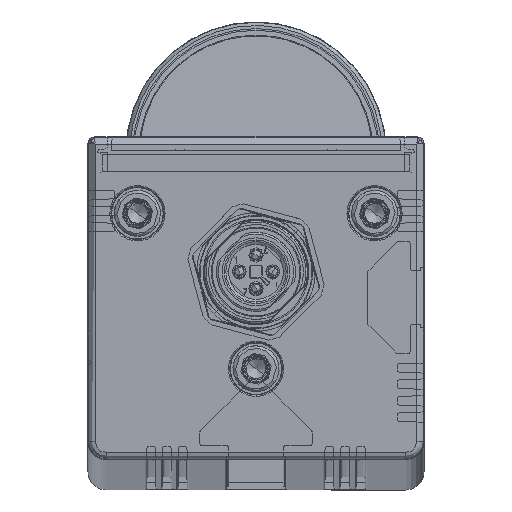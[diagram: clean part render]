
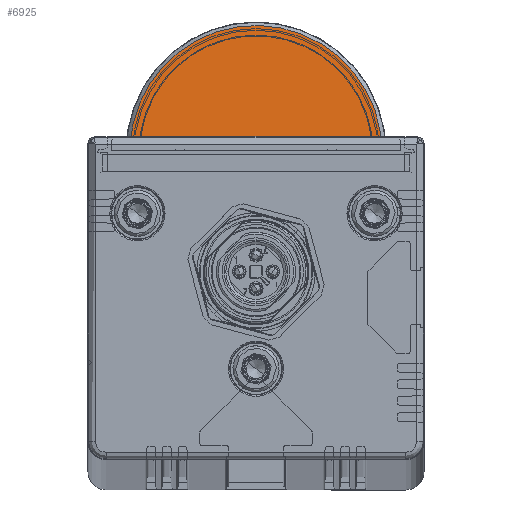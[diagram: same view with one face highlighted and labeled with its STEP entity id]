
A CAD part, top view. The second image highlights one B-rep face of the part: STEP entity #6925.
In plain terms, the highlighted planar face has unit normal (0, 0.087, 0.996).
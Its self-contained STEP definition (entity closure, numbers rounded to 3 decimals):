
#1032 = CARTESIAN_POINT ( 'NONE',  ( -2.518, 20.743, -10.17 ) ) ;
#1156 = CARTESIAN_POINT ( 'NONE',  ( 12.696, 16.094, -9.764 ) ) ;
#2732 = CARTESIAN_POINT ( 'NONE',  ( -1.259, 20.868, -10.181 ) ) ;
#2879 = ORIENTED_EDGE ( 'NONE', *, *, #16325, .T. ) ;
#3195 = CARTESIAN_POINT ( 'NONE',  ( -17.236, 10.097, -9.239 ) ) ;
#4321 = VERTEX_POINT ( 'NONE', #16996 ) ;
#4664 = CARTESIAN_POINT ( 'NONE',  ( 2.517, 20.743, -10.17 ) ) ;
#4775 = CARTESIAN_POINT ( 'NONE',  ( 1.259, 20.868, -10.181 ) ) ;
#4893 = CARTESIAN_POINT ( 'NONE',  ( 9.634, 18.309, -9.957 ) ) ;
#5005 = CARTESIAN_POINT ( 'NONE',  ( -6.197, 19.879, -10.095 ) ) ;
#6249 = CARTESIAN_POINT ( 'NONE',  ( -19.116, 2.816, -8.602 ) ) ;
#6466 = CARTESIAN_POINT ( 'NONE',  ( 15.264, 13.321, -9.521 ) ) ;
#6585 = CARTESIAN_POINT ( 'NONE',  ( 19.005, 4.074, -8.712 ) ) ;
#6704 = CARTESIAN_POINT ( 'NONE',  ( 17.236, 10.097, -9.239 ) ) ;
#6876 = DIRECTION ( 'NONE',  ( 0., -0.996, 0.087 ) ) ;
#6925 = ADVANCED_FACE ( 'NONE', ( #17104 ), #15405, .T. ) ;
#7949 = CARTESIAN_POINT ( 'NONE',  ( -19.005, 4.075, -8.712 ) ) ;
#8408 = CARTESIAN_POINT ( 'NONE',  ( -18.181, 7.763, -9.035 ) ) ;
#9651 = CARTESIAN_POINT ( 'NONE',  ( 11.723, 16.901, -9.834 ) ) ;
#9763 = CARTESIAN_POINT ( 'NONE',  ( 4.988, 20.248, -10.127 ) ) ;
#9895 = CARTESIAN_POINT ( 'NONE',  ( -8.521, 18.909, -10.01 ) ) ;
#9896 = CARTESIAN_POINT ( 'NONE',  ( 19.102, 1.555, -8.492 ) ) ;
#9998 = CARTESIAN_POINT ( 'NONE',  ( 6.196, 19.879, -10.095 ) ) ;
#10801 = CARTESIAN_POINT ( 'NONE',  ( -23.75, 1.555, -8.492 ) ) ;
#11585 = CARTESIAN_POINT ( 'NONE',  ( 19.116, 2.815, -8.602 ) ) ;
#11819 = CARTESIAN_POINT ( 'NONE',  ( -12.696, 16.094, -9.764 ) ) ;
#11891 = B_SPLINE_CURVE_WITH_KNOTS ( 'NONE', 3,
 ( #11928, #11585, #6585, #18377, #17023, #6704, #20201, #6466, #20547, #1156, #9651, #4893, #13303, #9998, #9763, #4664, #4775, #2732, #1032, #18497, #5005, #9895, #16916, #16812, #11819, #18719, #16565, #21795, #3195, #8408, #15337, #7949, #6249, #13205 ),
 .UNSPECIFIED., .F., .F.,
 ( 4, 2, 2, 2, 2, 2, 2, 2, 2, 2, 2, 2, 2, 2, 2, 2, 4 ),
 ( 0., 0.062, 0.125, 0.187, 0.25, 0.312, 0.375, 0.437, 0.5, 0.562, 0.625, 0.687, 0.75, 0.812, 0.875, 0.937, 1. ),
 .UNSPECIFIED. ) ;
#11928 = CARTESIAN_POINT ( 'NONE',  ( 19.102, 1.555, -8.492 ) ) ;
#12298 = EDGE_LOOP ( 'NONE', ( #2879, #18176 ) ) ;
#13205 = CARTESIAN_POINT ( 'NONE',  ( -19.102, 1.555, -8.492 ) ) ;
#13303 = CARTESIAN_POINT ( 'NONE',  ( 8.521, 18.908, -10.01 ) ) ;
#14339 = LINE ( 'NONE', #10801, #21797 ) ;
#15337 = CARTESIAN_POINT ( 'NONE',  ( -18.537, 6.549, -8.929 ) ) ;
#15405 = PLANE ( 'NONE',  #16412 ) ;
#15507 = DIRECTION ( 'NONE',  ( 0., 0.087, 0.996 ) ) ;
#16325 = EDGE_CURVE ( 'NONE', #4321, #18906, #14339, .T. ) ;
#16412 = AXIS2_PLACEMENT_3D ( 'NONE', #22323, #15507, #6876 ) ;
#16565 = CARTESIAN_POINT ( 'NONE',  ( -15.264, 13.321, -9.521 ) ) ;
#16812 = CARTESIAN_POINT ( 'NONE',  ( -11.723, 16.901, -9.834 ) ) ;
#16916 = CARTESIAN_POINT ( 'NONE',  ( -9.634, 18.309, -9.957 ) ) ;
#16996 = CARTESIAN_POINT ( 'NONE',  ( -19.102, 1.555, -8.492 ) ) ;
#17023 = CARTESIAN_POINT ( 'NONE',  ( 18.181, 7.762, -9.035 ) ) ;
#17104 = FACE_OUTER_BOUND ( 'NONE', #12298, .T. ) ;
#18176 = ORIENTED_EDGE ( 'NONE', *, *, #20785, .T. ) ;
#18377 = CARTESIAN_POINT ( 'NONE',  ( 18.537, 6.55, -8.929 ) ) ;
#18497 = CARTESIAN_POINT ( 'NONE',  ( -4.987, 20.248, -10.127 ) ) ;
#18719 = CARTESIAN_POINT ( 'NONE',  ( -14.468, 14.303, -9.607 ) ) ;
#18906 = VERTEX_POINT ( 'NONE', #9896 ) ;
#20201 = CARTESIAN_POINT ( 'NONE',  ( 16.648, 11.217, -9.337 ) ) ;
#20547 = CARTESIAN_POINT ( 'NONE',  ( 14.467, 14.303, -9.607 ) ) ;
#20785 = EDGE_CURVE ( 'NONE', #18906, #4321, #11891, .T. ) ;
#21141 = DIRECTION ( 'NONE',  ( 1., 0., 0. ) ) ;
#21795 = CARTESIAN_POINT ( 'NONE',  ( -16.649, 11.217, -9.337 ) ) ;
#21797 = VECTOR ( 'NONE', #21141, 1000. ) ;
#22323 = CARTESIAN_POINT ( 'NONE',  ( -23.75, 1.65, -8.5 ) ) ;
